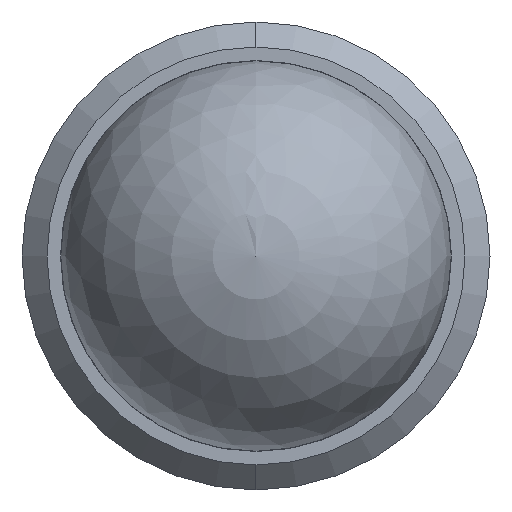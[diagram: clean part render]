
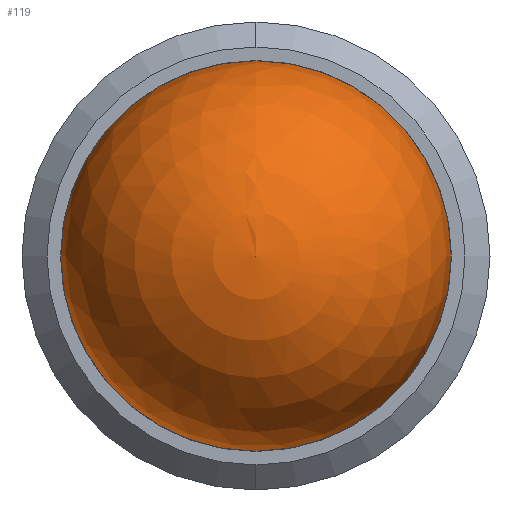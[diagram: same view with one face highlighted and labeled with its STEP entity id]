
A CAD part, left-side view. The second image highlights one B-rep face of the part: STEP entity #119.
In plain terms, the highlighted spherical face has radius 1.984 mm.
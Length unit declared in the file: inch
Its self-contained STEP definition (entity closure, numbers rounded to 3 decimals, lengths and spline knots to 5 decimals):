
#83 = ORIENTED_EDGE ( 'NONE', *, *, #98, .F. ) ;
#93 = EDGE_CURVE ( 'NONE', #347, #173, #292, .T. ) ;
#98 = EDGE_CURVE ( 'NONE', #347, #173, #290, .T. ) ;
#101 = CARTESIAN_POINT ( 'NONE',  ( 0., 0., 0. ) ) ;
#119 = ADVANCED_FACE ( 'NONE', ( #155 ), #599, .T. ) ;
#155 = FACE_OUTER_BOUND ( 'NONE', #431, .T. ) ;
#156 = DIRECTION ( 'NONE',  ( 0., 0., -1. ) ) ;
#162 = DIRECTION ( 'NONE',  ( -1., 0., 0. ) ) ;
#173 = VERTEX_POINT ( 'NONE', #338 ) ;
#183 = DIRECTION ( 'NONE',  ( 0., 0., 1. ) ) ;
#186 = CARTESIAN_POINT ( 'NONE',  ( 0., 0.07813, 0. ) ) ;
#290 = CIRCLE ( 'NONE', #584, 0.07813 ) ;
#292 = CIRCLE ( 'NONE', #595, 0.07813 ) ;
#311 = ORIENTED_EDGE ( 'NONE', *, *, #93, .T. ) ;
#316 = CARTESIAN_POINT ( 'NONE',  ( 0., 0., 0. ) ) ;
#320 = CARTESIAN_POINT ( 'NONE',  ( 0., 0., 0. ) ) ;
#338 = CARTESIAN_POINT ( 'NONE',  ( 0., -0.07813, 0. ) ) ;
#347 = VERTEX_POINT ( 'NONE', #186 ) ;
#350 = DIRECTION ( 'NONE',  ( 0., 0., 1. ) ) ;
#423 = DIRECTION ( 'NONE',  ( 1., 0., 0. ) ) ;
#431 = EDGE_LOOP ( 'NONE', ( #83, #311 ) ) ;
#573 = AXIS2_PLACEMENT_3D ( 'NONE', #320, #162, #183 ) ;
#584 = AXIS2_PLACEMENT_3D ( 'NONE', #101, #423, #156 ) ;
#595 = AXIS2_PLACEMENT_3D ( 'NONE', #316, #620, #350 ) ;
#599 = SPHERICAL_SURFACE ( 'NONE', #573, 0.07813 ) ;
#620 = DIRECTION ( 'NONE',  ( -1., 0., 0. ) ) ;
